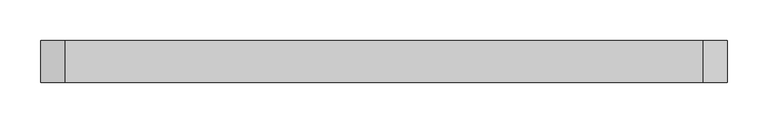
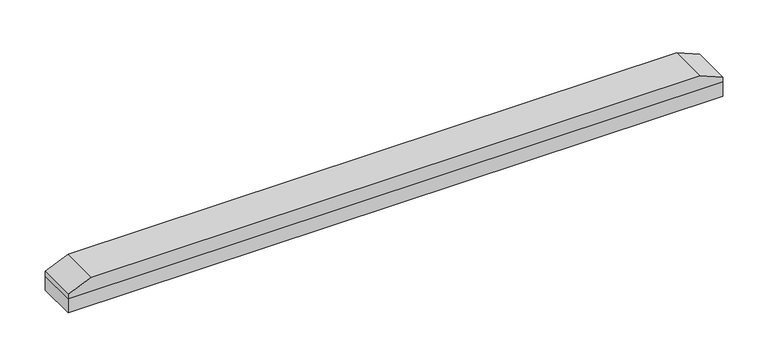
"""IFC4 building model written with IfcOpenShell, lengths in millimetres: proxy geometry, Spinneybeck_ARO Plank 8 : B - 2’-9” x 2” x 3/4”."""

from ifc_helpers import new_model, si_unit, frame, origin, origin_with_axes, place, context, project, spatial, polyline, outline, extrude, source, transform, mapped, element, save


def specialty_equipment_8bea2172(model_context):
    return source(origin(), model_context, "Body", "SweptSolid", [
        extrude(outline(polyline([(19.05, -419.1), (19.05, 419.1), (25.4, 419.1), (38.1, 389.4666667), (38.1, -389.4666667), (25.4, -419.1), (19.05, -419.1)])), frame((0.0, -25.4, 0.0), z_axis=(0.0, 1.0, 0.0), x_axis=(0.0, 0.0, 1.0)), (0.0, 0.0, 1.0), 50.8),
        extrude(outline(polyline([(-419.1, -25.4), (-419.1, 25.4), (419.1, 25.4), (419.1, -25.4), (-419.1, -25.4)])), origin_with_axes(), (0.0, 0.0, 1.0), 19.05),
    ])


if __name__ == "__main__":
    model = new_model("IFC4")
    model_context = context("Model", 3, world=origin())
    ifc_project = project(units=[si_unit("LENGTHUNIT", "METRE", prefix="MILLI")], contexts=[model_context])
    site = spatial("IfcSite", under=ifc_project)
    building = spatial("IfcBuilding", under=site)
    placement = place(None, origin())
    specialty_equipment_shape = specialty_equipment_8bea2172(model_context)
    element("IfcBuildingElementProxy", 1, Name="Spinneybeck_ARO Plank 8 : B - 2’-9” x 2” x 3/4”", ObjectType="Spinneybeck_ARO Plank 8 : B - 2’-9” x 2” x 3/4”", at=placement, inside=building, context=model_context, shape_type="MappedRepresentation", body=[
        mapped(specialty_equipment_shape, transform((0.0, 0.0, 0.0), x_axis=(1.0, 0.0, 0.0), y_axis=(0.0, 1.0, 0.0), z_axis=(0.0, 0.0, 1.0))),
    ])
    save(model, "model.ifc")
